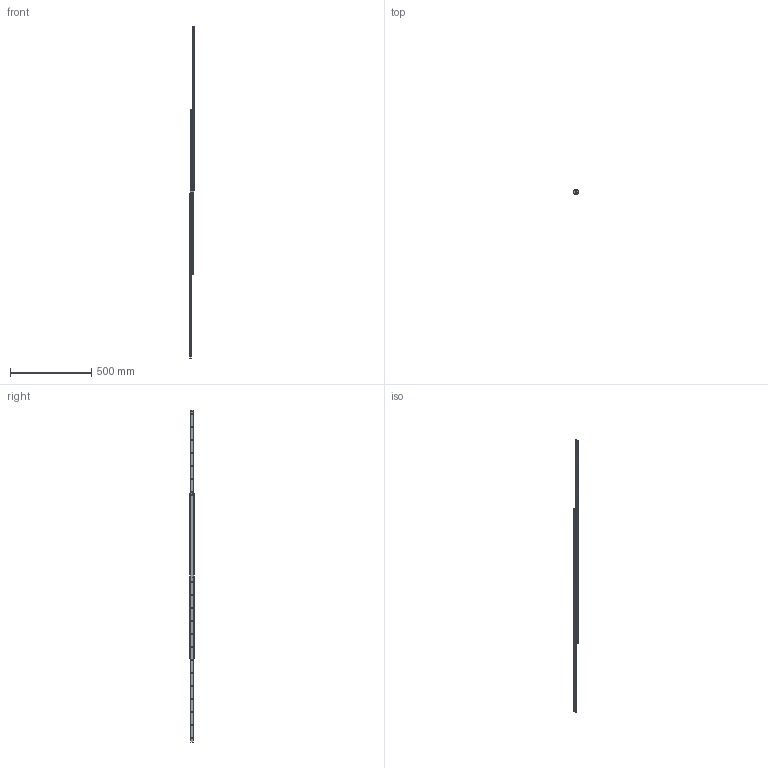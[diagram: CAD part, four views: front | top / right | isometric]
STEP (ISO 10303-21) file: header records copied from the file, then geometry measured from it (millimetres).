
FILE_DESCRIPTION( ( 'STEP AP214' ), '1' );
FILE_NAME( 'p:/temp/worker_93/temp/exporttempdir_5908_1371_H2261/format_1/DEF28-10101034.stp', '2020-03-20T19:47:49', ( 'License CC BY-ND 4.0' ), ( 'CADENAS' ), ' ', 'PARTsolutions', ' ' );
FILE_SCHEMA( ( 'AUTOMOTIVE_DESIGN { 1 0 10303 214 1 1 1 1 }' ) );
Length unit declared in the file: millimetre
Products named in the file (4): DEF28-10101034; _28211010103412-gf; _2821101010341-ei; _28211010103411-gf
Assembly tree (4 placements, depth 2):
  DEF28-10101034
    _28211010103412-gf
    _2821101010341-ei  x2
    _28211010103411-gf
Bounding box: 26 x 28 x 2044 mm (x, y, z)
Volume: 489761.7 mm3; surface area: 291828.3 mm2
Topology: 4 solids, 4 shells, 228 faces, 570 edges, 362 vertices
Faces by surface type: plane 102, cylinder 70, cone 56
Full cylindrical faces by diameter (mm): 4.134 x26, 5 x2
Entity records: 6564 total; most frequent: DIRECTION 908, CARTESIAN_POINT 832, ORIENTED_EDGE 732, EDGE_CURVE 366, AXIS2_PLACEMENT_3D 356, EDGE_LOOP 322, VERTEX_POINT 280, FACE_OUTER_BOUND 208
